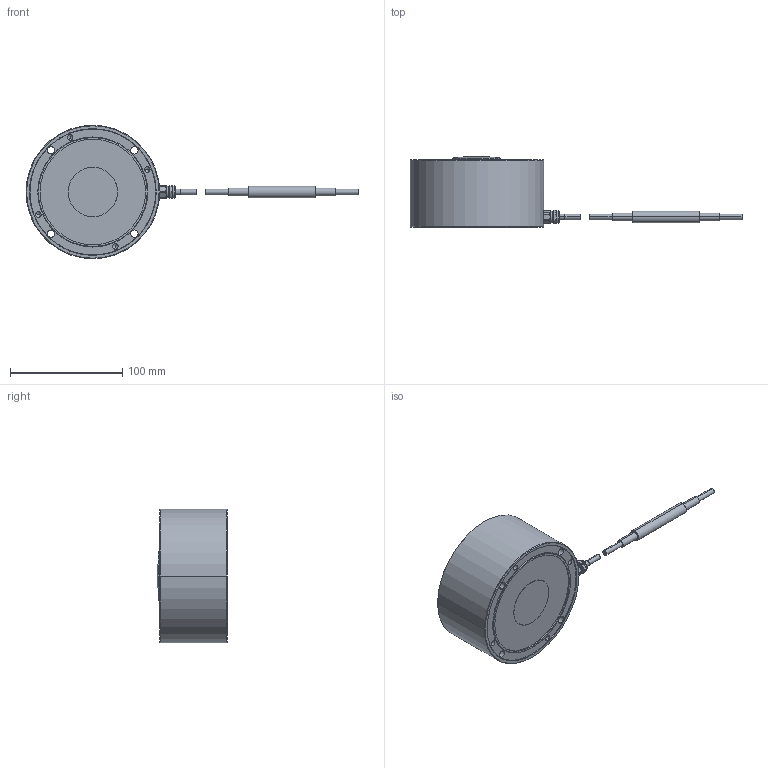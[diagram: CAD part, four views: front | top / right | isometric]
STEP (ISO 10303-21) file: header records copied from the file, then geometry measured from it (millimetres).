
FILE_DESCRIPTION(('STEP AP203'),'1');
FILE_NAME('C:/TPO v2/SharedFS/Outgoing/burster_8527-6020_eidfefkeen2693ieka94zfebb.stp','2013-08-27T13:26:49',('TraceParts'),('TraceParts S.A.'),'XStep 1.0',' ',' ');
FILE_SCHEMA(('CONFIG_CONTROL_DESIGN'));
Length unit declared in the file: millimetre
Products named in the file (2): 1; 2
Bounding box: 295.75 x 62.61 x 119 mm (x, y, z)
Volume: 657231.3 mm3; surface area: 55857.1 mm2
Topology: 2 solids, 2 shells, 163 faces, 382 edges, 241 vertices
Faces by surface type: cylinder 82, plane 38, cone 30, torus 12, sphere 1
Entity records: 4802 total; most frequent: DIRECTION 901, CARTESIAN_POINT 863, ORIENTED_EDGE 748, AXIS2_PLACEMENT_3D 388, EDGE_CURVE 374, VERTEX_POINT 241, CIRCLE 223, EDGE_LOOP 197
